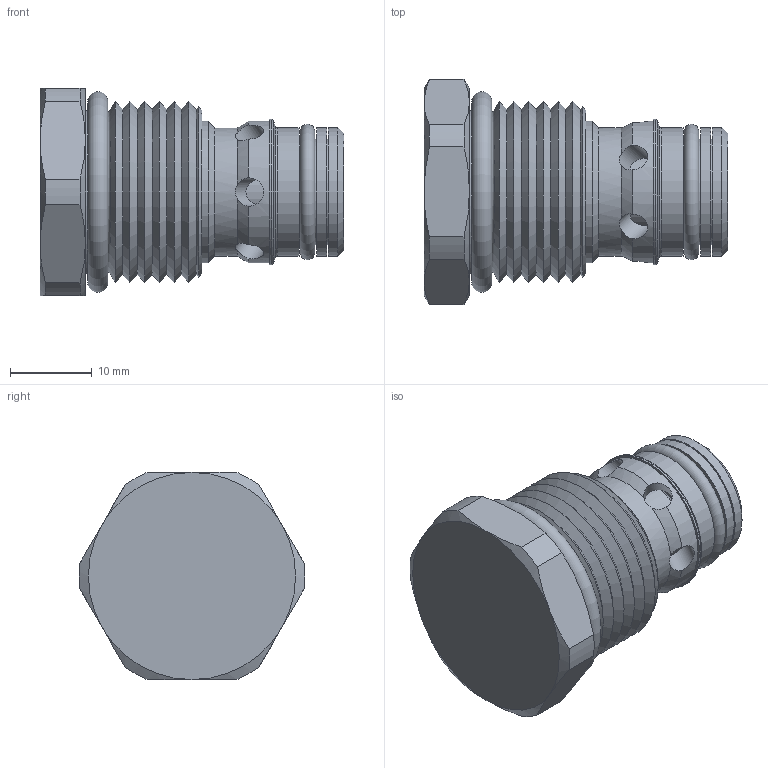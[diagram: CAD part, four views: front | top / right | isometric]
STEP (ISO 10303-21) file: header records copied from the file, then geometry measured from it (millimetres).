
FILE_DESCRIPTION(/* description */ ('HDE-CVA-00-0005'),/* implementation_level */ '2;1');
FILE_NAME(/* name */ 'P:\EARS\EAR16xx\EAR1683 - catalog pages changes\Group1_Distribution 11_22_22\RTeck Agency_Tom\_SolidModels\HDECVA00.stp',/* time_stamp */ '2023-01-03T07:53:24-06:00',/* author */ ('Michael'),/* organization */ (''),/* preprocessor_version */ 'ST-DEVELOPER v17.2',/* originating_system */ 'Autodesk Inventor 2019',/* authorisation */ '');
FILE_SCHEMA (('AUTOMOTIVE_DESIGN { 1 0 10303 214 3 1 1 }'));
Length unit declared in the file: inch
Products named in the file (1): 81500016
Bounding box: 37.26 x 27.67 x 25.4 mm (x, y, z)
Volume: 10911.1 mm3; surface area: 5891.8 mm2
Topology: 4 solids, 4 shells, 95 faces, 239 edges, 150 vertices
Faces by surface type: cone 38, cylinder 29, plane 21, torus 7
Full cylindrical faces by diameter (mm): 2.388 x1, 3.454 x6, 6.731 x1, 7.925 x1, 7.95 x1, 9.525 x1, 11.081 x1, 11.142 x1, 12.992 x1, 13.043 x1, 15.735 x1, 15.773 x3, 17.323 x2, 17.843 x1, 19.621 x1
Entity records: 3541 total; most frequent: CARTESIAN_POINT 1119, ORIENTED_EDGE 476, DIRECTION 475, EDGE_CURVE 238, AXIS2_PLACEMENT_3D 209, VERTEX_POINT 150, EDGE_LOOP 113, CIRCLE 113
